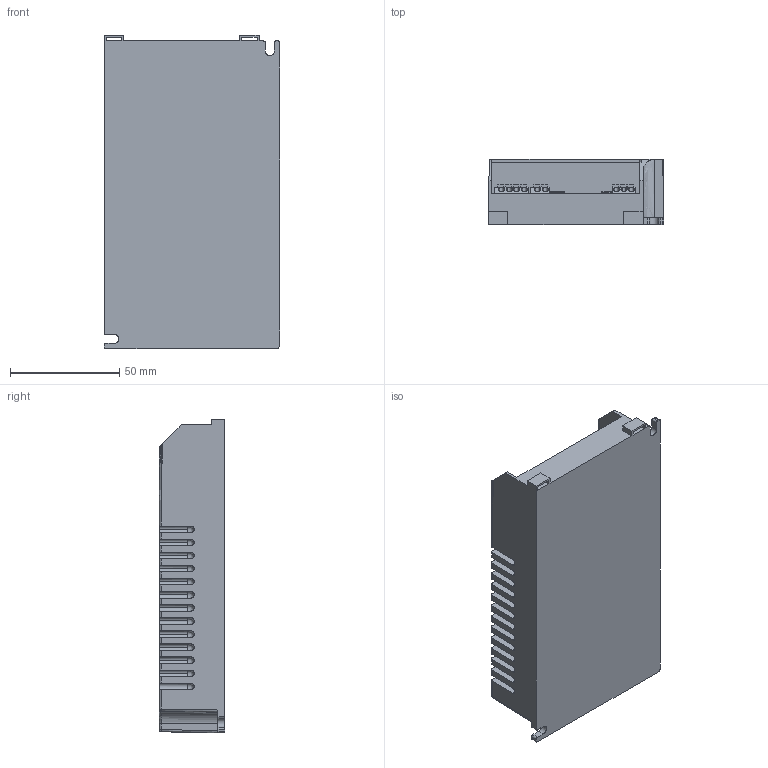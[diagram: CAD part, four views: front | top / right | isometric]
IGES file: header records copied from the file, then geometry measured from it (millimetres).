
Start section: SolidWorks IGES file using analytic representation for surfaces
Global section: file name: c:\users\vuorinen_kari\OneDrive - Helvar Oy Ab\Desktop\prj\LC150HE-CC-350-700-IND\LC150HE-CC.IGS; native system: SolidWorks 2014; preprocessor: SolidWorks 2014; author: Vuorinen_Kari; date: 210309.201719; units: millimetre
Bounding box: 80.5 x 30 x 143.8 mm (x, y, z)
Surface area: 49226.1 mm2 (no closed solid volume)
Topology: 0 solids, 0 shells, 381 faces, 4396 edges, 4396 vertices
Faces by surface type: bspline 229, revolution 152
